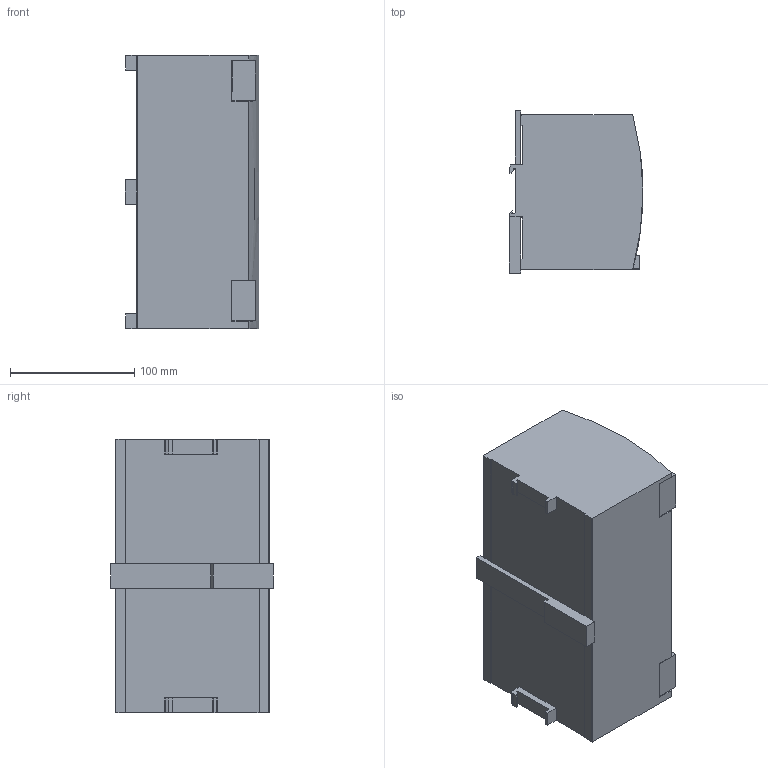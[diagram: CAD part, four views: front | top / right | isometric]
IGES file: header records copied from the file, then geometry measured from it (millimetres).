
Start section: SolidWorks IGES FILE using analytic representation for surfaces
Global section: file name: C:\Vertrieb\SL20_100\SL20_100.IGS; native system: SolidWorks 2004 by SolidWorks Corporation; preprocessor: Version 5.3; author: heinrij; date: 031006.141936; units: millimetre
Bounding box: 107.63 x 130.5 x 220 mm (x, y, z)
Surface area: 131916.1 mm2 (no closed solid volume)
Topology: 0 solids, 0 shells, 677 faces, 6246 edges, 6246 vertices
Faces by surface type: bspline 634, revolution 43
